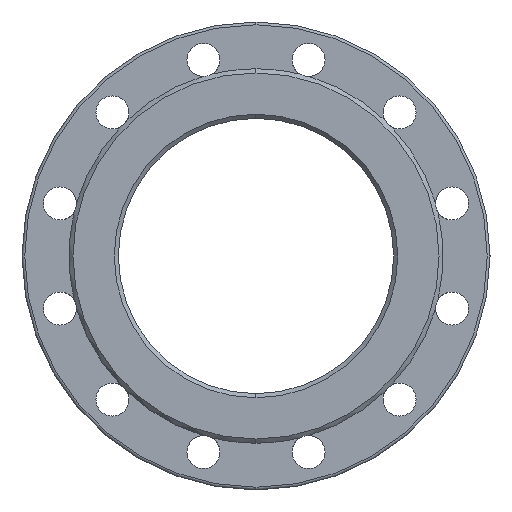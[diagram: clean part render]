
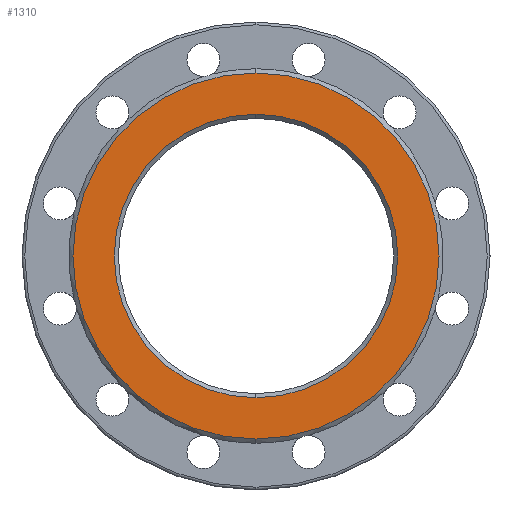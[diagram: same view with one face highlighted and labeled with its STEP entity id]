
A CAD part, left-side view. The second image highlights one B-rep face of the part: STEP entity #1310.
In plain terms, the highlighted planar face has unit normal (-1, 0, 0).
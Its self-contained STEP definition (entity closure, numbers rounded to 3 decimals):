
#115 = CIRCLE ( 'NONE', #1463, 103. ) ;
#539 = EDGE_LOOP ( 'NONE', ( #1119, #3369 ) ) ;
#577 = EDGE_CURVE ( 'Defeatured_0_4+Defeatured_0_24+Defeatured_0_24+Defeatured_0_24', #1048, #829, #2715, .T. ) ;
#612 = EDGE_CURVE ( 'Defeatured_0_4+Defeatured_0_24+Defeatured_0_24+Defeatured_0_24', #829, #1048, #115, .T. ) ;
#681 = DIRECTION ( 'NONE',  ( 1., 0., 0. ) ) ;
#745 = CARTESIAN_POINT ( 'NONE',  ( -250., 100., 0. ) ) ;
#829 = VERTEX_POINT ( 'NONE', #3862 ) ;
#1048 = VERTEX_POINT ( 'NONE', #3964 ) ;
#1119 = ORIENTED_EDGE ( 'NONE', *, *, #612, .T. ) ;
#1229 = CARTESIAN_POINT ( 'NONE',  ( -250., 0., 0. ) ) ;
#1279 = AXIS2_PLACEMENT_3D ( 'NONE', #745, #2101, #4036 ) ;
#1310 = ADVANCED_FACE ( 'Defeatured_0_4', ( #3437, #3946 ), #5330, .F. ) ;
#1447 = CARTESIAN_POINT ( 'NONE',  ( -250., 0., 133. ) ) ;
#1463 = AXIS2_PLACEMENT_3D ( 'NONE', #1229, #3961, #5376 ) ;
#1560 = CARTESIAN_POINT ( 'NONE',  ( -250., 0., 0. ) ) ;
#1626 = ORIENTED_EDGE ( 'NONE', *, *, #2944, .T. ) ;
#2101 = DIRECTION ( 'NONE',  ( 1., 0., 0. ) ) ;
#2436 = CIRCLE ( 'NONE', #4874, 133. ) ;
#2715 = CIRCLE ( 'NONE', #4154, 103. ) ;
#2841 = DIRECTION ( 'NONE',  ( 0., 0., 1. ) ) ;
#2893 = EDGE_LOOP ( 'NONE', ( #1626, #4208 ) ) ;
#2944 = EDGE_CURVE ( 'Defeatured_0_4+Defeatured_0_0+Defeatured_0_0+Defeatured_0_0', #4256, #4630, #5958, .T. ) ;
#3089 = DIRECTION ( 'NONE',  ( -1., 0., 0. ) ) ;
#3330 = AXIS2_PLACEMENT_3D ( 'NONE', #4432, #3089, #4834 ) ;
#3369 = ORIENTED_EDGE ( 'NONE', *, *, #577, .T. ) ;
#3437 = FACE_BOUND ( 'NONE', #539, .T. ) ;
#3862 = CARTESIAN_POINT ( 'NONE',  ( -250., 0., 103. ) ) ;
#3946 = FACE_OUTER_BOUND ( 'NONE', #2893, .T. ) ;
#3961 = DIRECTION ( 'NONE',  ( 1., 0., 0. ) ) ;
#3964 = CARTESIAN_POINT ( 'NONE',  ( -250., 0., -103. ) ) ;
#4036 = DIRECTION ( 'NONE',  ( 0., 0., -1. ) ) ;
#4154 = AXIS2_PLACEMENT_3D ( 'NONE', #1560, #681, #5390 ) ;
#4208 = ORIENTED_EDGE ( 'NONE', *, *, #5243, .T. ) ;
#4256 = VERTEX_POINT ( 'NONE', #5168 ) ;
#4432 = CARTESIAN_POINT ( 'NONE',  ( -250., 0., 0. ) ) ;
#4630 = VERTEX_POINT ( 'NONE', #1447 ) ;
#4703 = CARTESIAN_POINT ( 'NONE',  ( -250., 0., 0. ) ) ;
#4834 = DIRECTION ( 'NONE',  ( 0., 0., 1. ) ) ;
#4874 = AXIS2_PLACEMENT_3D ( 'NONE', #4703, #5160, #2841 ) ;
#5160 = DIRECTION ( 'NONE',  ( -1., 0., 0. ) ) ;
#5168 = CARTESIAN_POINT ( 'NONE',  ( -250., 0., -133. ) ) ;
#5243 = EDGE_CURVE ( 'Defeatured_0_4+Defeatured_0_0+Defeatured_0_0+Defeatured_0_0', #4630, #4256, #2436, .T. ) ;
#5330 = PLANE ( 'NONE',  #1279 ) ;
#5376 = DIRECTION ( 'NONE',  ( 0., 0., -1. ) ) ;
#5390 = DIRECTION ( 'NONE',  ( 0., 0., -1. ) ) ;
#5958 = CIRCLE ( 'NONE', #3330, 133. ) ;
